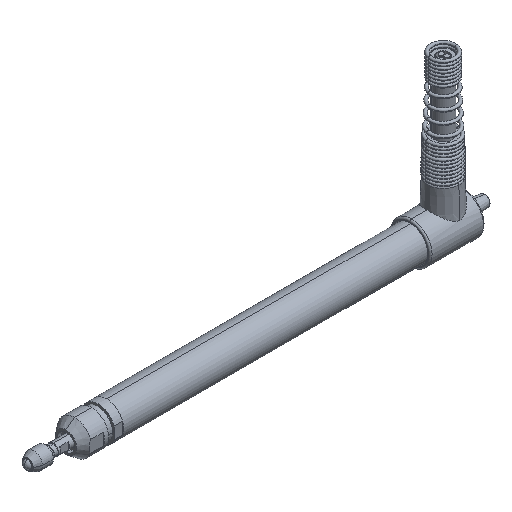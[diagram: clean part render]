
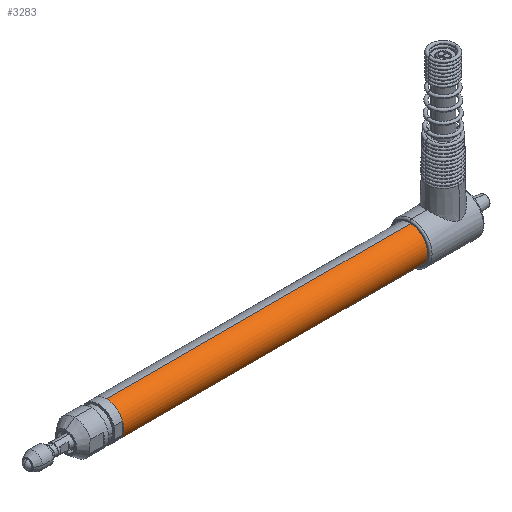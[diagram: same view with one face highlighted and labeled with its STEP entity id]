
A CAD part, isometric view. The second image highlights one B-rep face of the part: STEP entity #3283.
In plain terms, the highlighted cylindrical face has radius 4 mm (diameter 8 mm), a partial arc.
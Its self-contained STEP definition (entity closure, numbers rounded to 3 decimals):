
#121 = CARTESIAN_POINT ( 'NONE',  ( -9.052, 0., -4. ) ) ;
#171 = LINE ( 'NONE', #1893, #7769 ) ;
#197 = EDGE_CURVE ( 'NONE', #9402, #7093, #6251, .T. ) ;
#513 = CYLINDRICAL_SURFACE ( 'NONE', #2275, 4. ) ;
#563 = CARTESIAN_POINT ( 'NONE',  ( -9.5, -3.75, -1.392 ) ) ;
#818 = CIRCLE ( 'NONE', #7945, 4. ) ;
#960 = CARTESIAN_POINT ( 'NONE',  ( -9.052, 0., 0. ) ) ;
#971 = CARTESIAN_POINT ( 'NONE',  ( -9.5, 0., 0. ) ) ;
#982 = VERTEX_POINT ( 'NONE', #121 ) ;
#1071 = DIRECTION ( 'NONE',  ( 1., 0., 0. ) ) ;
#1122 = CARTESIAN_POINT ( 'NONE',  ( -9.052, 0., 0. ) ) ;
#1154 = DIRECTION ( 'NONE',  ( 0., 0., 1. ) ) ;
#1163 = LINE ( 'NONE', #5724, #7481 ) ;
#1207 = AXIS2_PLACEMENT_3D ( 'NONE', #1122, #8411, #1154 ) ;
#1383 = CARTESIAN_POINT ( 'NONE',  ( -341.293, 0., 4. ) ) ;
#1468 = EDGE_CURVE ( 'NONE', #5874, #2463, #8623, .T. ) ;
#1484 = VECTOR ( 'NONE', #5459, 1000. ) ;
#1626 = CARTESIAN_POINT ( 'NONE',  ( -85.5, 0., 0. ) ) ;
#1679 = CARTESIAN_POINT ( 'NONE',  ( -341.293, 0., 0. ) ) ;
#1745 = LINE ( 'NONE', #1383, #8309 ) ;
#1810 = CARTESIAN_POINT ( 'NONE',  ( -9.052, -3.75, 1.392 ) ) ;
#1881 = ORIENTED_EDGE ( 'NONE', *, *, #6630, .F. ) ;
#1882 = CARTESIAN_POINT ( 'NONE',  ( -9.052, 0., 4. ) ) ;
#1892 = EDGE_CURVE ( 'NONE', #6325, #4733, #3422, .T. ) ;
#1893 = CARTESIAN_POINT ( 'NONE',  ( -341.293, -3.75, 1.392 ) ) ;
#1912 = ORIENTED_EDGE ( 'NONE', *, *, #8672, .F. ) ;
#1983 = DIRECTION ( 'NONE',  ( -1., 0., 0. ) ) ;
#2083 = ORIENTED_EDGE ( 'NONE', *, *, #9372, .F. ) ;
#2275 = AXIS2_PLACEMENT_3D ( 'NONE', #1679, #3725, #9180 ) ;
#2463 = VERTEX_POINT ( 'NONE', #4074 ) ;
#2512 = DIRECTION ( 'NONE',  ( -1., 0., 0. ) ) ;
#2646 = EDGE_LOOP ( 'NONE', ( #1912, #7753, #3396, #2083, #1881, #9397, #4223, #4739 ) ) ;
#3203 = DIRECTION ( 'NONE',  ( 0., 0., -1. ) ) ;
#3283 = ADVANCED_FACE ( 'NONE', ( #6814 ), #513, .T. ) ;
#3396 = ORIENTED_EDGE ( 'NONE', *, *, #1892, .F. ) ;
#3422 = LINE ( 'NONE', #4682, #1484 ) ;
#3481 = CARTESIAN_POINT ( 'NONE',  ( -85.5, 0., -4. ) ) ;
#3725 = DIRECTION ( 'NONE',  ( -1., 0., 0. ) ) ;
#3829 = DIRECTION ( 'NONE',  ( 0., 0., 1. ) ) ;
#3849 = DIRECTION ( 'NONE',  ( 0., 0., 1. ) ) ;
#4074 = CARTESIAN_POINT ( 'NONE',  ( -85.5, 0., 4. ) ) ;
#4223 = ORIENTED_EDGE ( 'NONE', *, *, #4317, .T. ) ;
#4317 = EDGE_CURVE ( 'NONE', #7093, #2463, #1745, .T. ) ;
#4418 = DIRECTION ( 'NONE',  ( -1., 0., 0. ) ) ;
#4642 = EDGE_CURVE ( 'NONE', #982, #4733, #818, .T. ) ;
#4682 = CARTESIAN_POINT ( 'NONE',  ( -341.293, -3.75, -1.392 ) ) ;
#4733 = VERTEX_POINT ( 'NONE', #6081 ) ;
#4739 = ORIENTED_EDGE ( 'NONE', *, *, #1468, .F. ) ;
#5295 = CARTESIAN_POINT ( 'NONE',  ( -9.5, -3.75, 1.392 ) ) ;
#5459 = DIRECTION ( 'NONE',  ( 1., 0., 0. ) ) ;
#5642 = AXIS2_PLACEMENT_3D ( 'NONE', #971, #1071, #3203 ) ;
#5724 = CARTESIAN_POINT ( 'NONE',  ( -341.293, 0., -4. ) ) ;
#5874 = VERTEX_POINT ( 'NONE', #3481 ) ;
#6081 = CARTESIAN_POINT ( 'NONE',  ( -9.052, -3.75, -1.392 ) ) ;
#6251 = CIRCLE ( 'NONE', #1207, 4. ) ;
#6325 = VERTEX_POINT ( 'NONE', #563 ) ;
#6499 = DIRECTION ( 'NONE',  ( -1., 0., 0. ) ) ;
#6630 = EDGE_CURVE ( 'NONE', #9402, #8843, #171, .T. ) ;
#6814 = FACE_OUTER_BOUND ( 'NONE', #2646, .T. ) ;
#7093 = VERTEX_POINT ( 'NONE', #1882 ) ;
#7481 = VECTOR ( 'NONE', #6499, 1000. ) ;
#7753 = ORIENTED_EDGE ( 'NONE', *, *, #4642, .T. ) ;
#7769 = VECTOR ( 'NONE', #1983, 1000. ) ;
#7945 = AXIS2_PLACEMENT_3D ( 'NONE', #960, #2512, #3849 ) ;
#8245 = DIRECTION ( 'NONE',  ( -1., 0., 0. ) ) ;
#8309 = VECTOR ( 'NONE', #4418, 1000. ) ;
#8411 = DIRECTION ( 'NONE',  ( -1., 0., 0. ) ) ;
#8623 = CIRCLE ( 'NONE', #9107, 4. ) ;
#8672 = EDGE_CURVE ( 'NONE', #982, #5874, #1163, .T. ) ;
#8843 = VERTEX_POINT ( 'NONE', #5295 ) ;
#9107 = AXIS2_PLACEMENT_3D ( 'NONE', #1626, #8245, #3829 ) ;
#9180 = DIRECTION ( 'NONE',  ( 0., 0., 1. ) ) ;
#9194 = CIRCLE ( 'NONE', #5642, 4. ) ;
#9372 = EDGE_CURVE ( 'NONE', #8843, #6325, #9194, .T. ) ;
#9397 = ORIENTED_EDGE ( 'NONE', *, *, #197, .T. ) ;
#9402 = VERTEX_POINT ( 'NONE', #1810 ) ;
